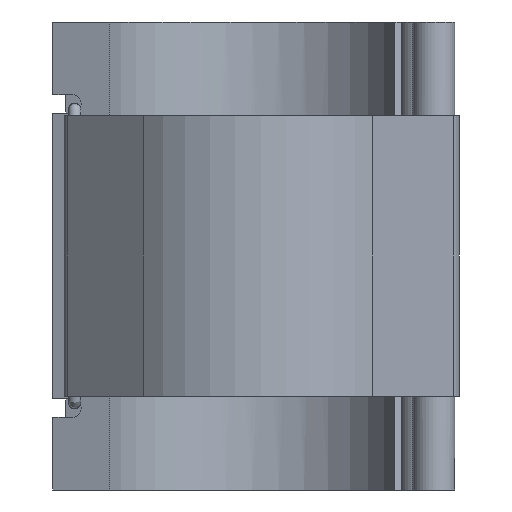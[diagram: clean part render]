
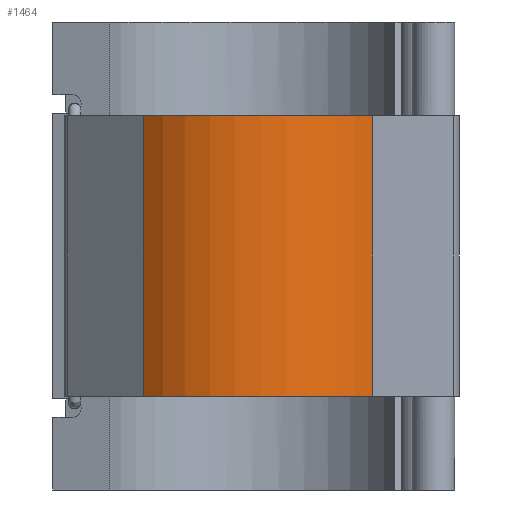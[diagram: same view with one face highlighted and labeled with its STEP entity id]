
A CAD part, front view. The second image highlights one B-rep face of the part: STEP entity #1464.
In plain terms, the highlighted cylindrical face has radius 58.761 mm (diameter 117.523 mm), a partial arc.
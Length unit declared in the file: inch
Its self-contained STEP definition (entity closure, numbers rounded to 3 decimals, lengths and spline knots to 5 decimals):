
#125=FACE_OUTER_BOUND('',#211,.T.);
#211=EDGE_LOOP('',(#1216,#1217,#1218,#1219));
#284=CIRCLE('',#1538,2.31344);
#293=CIRCLE('',#1548,2.31344);
#453=LINE('',#2441,#576);
#454=LINE('',#2443,#577);
#576=VECTOR('',#1955,0.3937);
#577=VECTOR('',#1958,0.3937);
#625=VERTEX_POINT('',#2190);
#626=VERTEX_POINT('',#2192);
#641=VERTEX_POINT('',#2224);
#642=VERTEX_POINT('',#2226);
#768=EDGE_CURVE('',#625,#626,#284,.T.);
#785=EDGE_CURVE('',#641,#642,#293,.T.);
#890=EDGE_CURVE('',#625,#642,#453,.T.);
#891=EDGE_CURVE('',#626,#641,#454,.T.);
#1216=ORIENTED_EDGE('',*,*,#890,.T.);
#1217=ORIENTED_EDGE('',*,*,#785,.F.);
#1218=ORIENTED_EDGE('',*,*,#891,.F.);
#1219=ORIENTED_EDGE('',*,*,#768,.F.);
#1403=CYLINDRICAL_SURFACE('',#1612,2.31344);
#1464=ADVANCED_FACE('',(#125),#1403,.T.);
#1538=AXIS2_PLACEMENT_3D('',#2193,#1725,#1726);
#1548=AXIS2_PLACEMENT_3D('',#2227,#1753,#1754);
#1612=AXIS2_PLACEMENT_3D('',#2442,#1956,#1957);
#1725=DIRECTION('center_axis',(0.,0.,-1.));
#1726=DIRECTION('ref_axis',(0.997,0.079,0.));
#1753=DIRECTION('center_axis',(0.,0.,1.));
#1754=DIRECTION('ref_axis',(0.997,0.079,0.));
#1955=DIRECTION('',(0.,0.,1.));
#1956=DIRECTION('center_axis',(0.,0.,1.));
#1957=DIRECTION('ref_axis',(0.997,0.079,0.));
#1958=DIRECTION('',(0.,0.,1.));
#2190=CARTESIAN_POINT('',(1.78235,-1.47487,-2.079));
#2192=CARTESIAN_POINT('',(-1.61386,-1.65755,-2.079));
#2193=CARTESIAN_POINT('Origin',(0.,0.,-2.079));
#2224=CARTESIAN_POINT('',(-1.61386,-1.65755,2.079));
#2226=CARTESIAN_POINT('',(1.78235,-1.47487,2.079));
#2227=CARTESIAN_POINT('Origin',(0.,0.,2.079));
#2441=CARTESIAN_POINT('',(1.78235,-1.47487,0.));
#2442=CARTESIAN_POINT('Origin',(0.,0.,0.));
#2443=CARTESIAN_POINT('',(-1.61386,-1.65755,0.));
